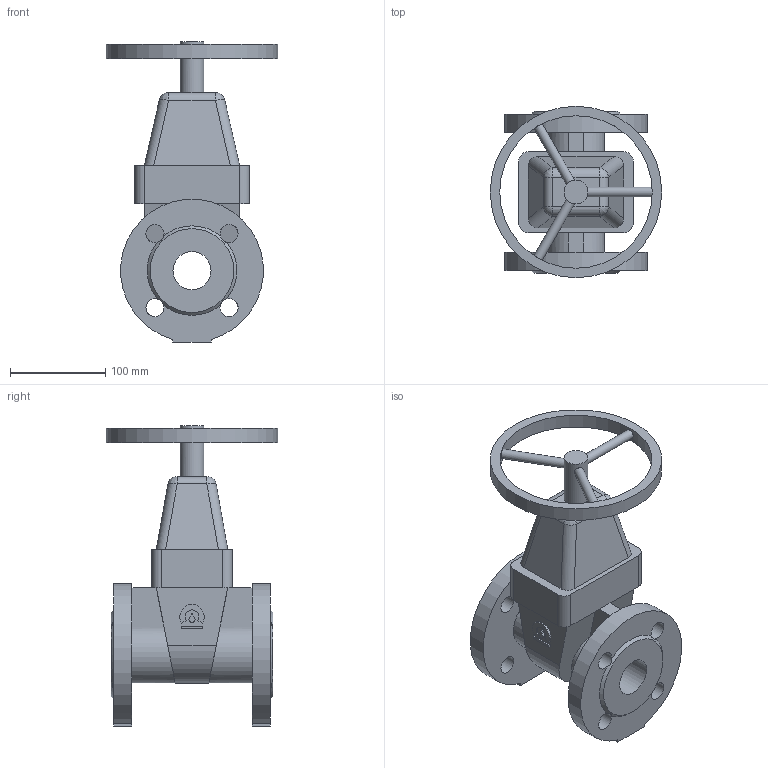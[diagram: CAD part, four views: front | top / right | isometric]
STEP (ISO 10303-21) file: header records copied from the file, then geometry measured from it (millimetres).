
FILE_DESCRIPTION(('STEP AP203'), '1');
FILE_NAME('Çàäâèæêà 47GV DN40 PN10_PN16_L170_W180 ñ ìàõîâèêîì', '', ('UNSPECIFIED'), ('UNSPECIFIED'), 'ASCON STEP Converter 1.6', 'ASCON Math Kernel', '');
FILE_SCHEMA(('CONFIG_CONTROL_DESIGN'));
Length unit declared in the file: millimetre
Bounding box: 180 x 180 x 315 mm (x, y, z)
Volume: 2154878.2 mm3; surface area: 232552.6 mm2
Topology: 1 solids, 1 shells, 96 faces, 259 edges, 164 vertices
Faces by surface type: plane 50, cylinder 40, bspline 4, cone 2
Full cylindrical faces by diameter (mm): 10 x3, 19 x8, 25 x1, 40 x1, 160 x1, 180 x1
Entity records: 5374 total; most frequent: CARTESIAN_POINT 2199, DIRECTION 482, ORIENTED_EDGE 476, EDGE_CURVE 238, AXIS2_PLACEMENT_3D 177, VERTEX_POINT 164, EDGE_LOOP 140, LINE 128
